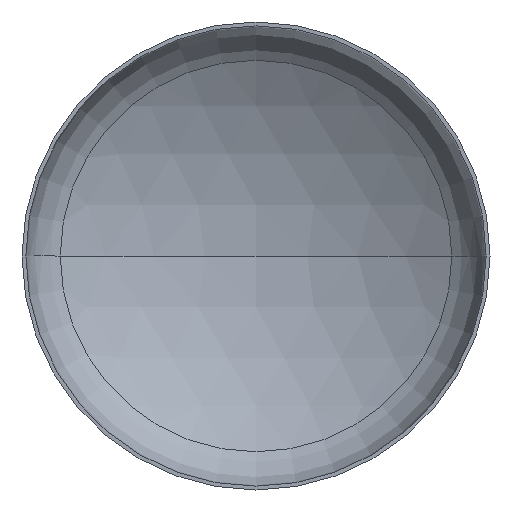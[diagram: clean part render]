
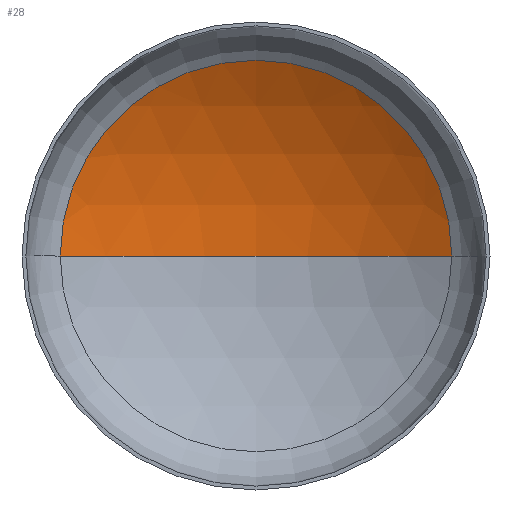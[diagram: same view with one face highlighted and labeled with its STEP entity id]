
A CAD part, front view. The second image highlights one B-rep face of the part: STEP entity #28.
In plain terms, the highlighted spherical face has radius 4000 mm.
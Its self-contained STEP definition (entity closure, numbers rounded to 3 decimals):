
#28 = ADVANCED_FACE ( 'NONE', ( #246 ), #393, .F. ) ;
#31 = DIRECTION ( 'NONE',  ( 1., 0., 0. ) ) ;
#33 = AXIS2_PLACEMENT_3D ( 'NONE', #84, #124, #304 ) ;
#37 = VERTEX_POINT ( 'NONE', #386 ) ;
#39 = DIRECTION ( 'NONE',  ( -1., 0., 0. ) ) ;
#51 = ORIENTED_EDGE ( 'NONE', *, *, #221, .F. ) ;
#58 = ORIENTED_EDGE ( 'NONE', *, *, #191, .T. ) ;
#80 = DIRECTION ( 'NONE',  ( 0., 0., -1. ) ) ;
#84 = CARTESIAN_POINT ( 'NONE',  ( 0., 786.339, 0. ) ) ;
#90 = AXIS2_PLACEMENT_3D ( 'NONE', #249, #80, #303 ) ;
#96 = VERTEX_POINT ( 'NONE', #299 ) ;
#109 = CIRCLE ( 'NONE', #118, 4000. ) ;
#118 = AXIS2_PLACEMENT_3D ( 'NONE', #390, #199, #31 ) ;
#124 = DIRECTION ( 'NONE',  ( 0., -1., 0. ) ) ;
#143 = ORIENTED_EDGE ( 'NONE', *, *, #207, .T. ) ;
#191 = EDGE_CURVE ( 'NONE', #37, #96, #367, .T. ) ;
#199 = DIRECTION ( 'NONE',  ( 0., 0., 1. ) ) ;
#203 = CARTESIAN_POINT ( 'NONE',  ( 0., 1376.788, 0. ) ) ;
#207 = EDGE_CURVE ( 'NONE', #404, #37, #287, .T. ) ;
#221 = EDGE_CURVE ( 'NONE', #404, #96, #109, .T. ) ;
#246 = FACE_OUTER_BOUND ( 'NONE', #351, .T. ) ;
#249 = CARTESIAN_POINT ( 'NONE',  ( 0., -2623.212, 0. ) ) ;
#255 = AXIS2_PLACEMENT_3D ( 'NONE', #384, #329, #39 ) ;
#287 = CIRCLE ( 'NONE', #90, 4000. ) ;
#299 = CARTESIAN_POINT ( 'NONE',  ( -2091.641, 786.339, 0. ) ) ;
#303 = DIRECTION ( 'NONE',  ( -1., 0., 0. ) ) ;
#304 = DIRECTION ( 'NONE',  ( 1., 0., 0. ) ) ;
#329 = DIRECTION ( 'NONE',  ( 0., 0., -1. ) ) ;
#351 = EDGE_LOOP ( 'NONE', ( #51, #143, #58 ) ) ;
#367 = CIRCLE ( 'NONE', #33, 2091.641 ) ;
#384 = CARTESIAN_POINT ( 'NONE',  ( 0., -2623.212, 0. ) ) ;
#386 = CARTESIAN_POINT ( 'NONE',  ( 2091.641, 786.339, 0. ) ) ;
#390 = CARTESIAN_POINT ( 'NONE',  ( 0., -2623.212, 0. ) ) ;
#393 = SPHERICAL_SURFACE ( 'NONE', #255, 4000. ) ;
#404 = VERTEX_POINT ( 'NONE', #203 ) ;
